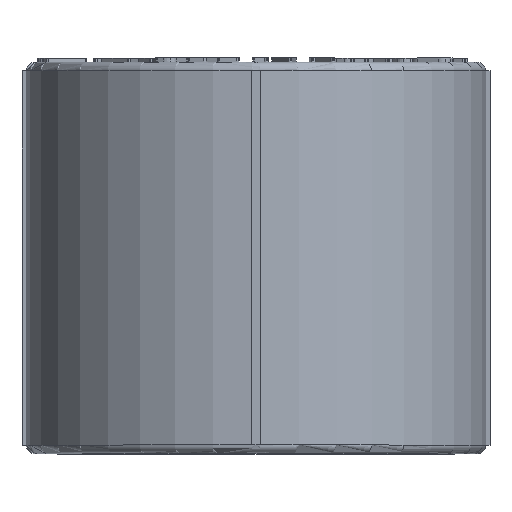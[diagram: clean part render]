
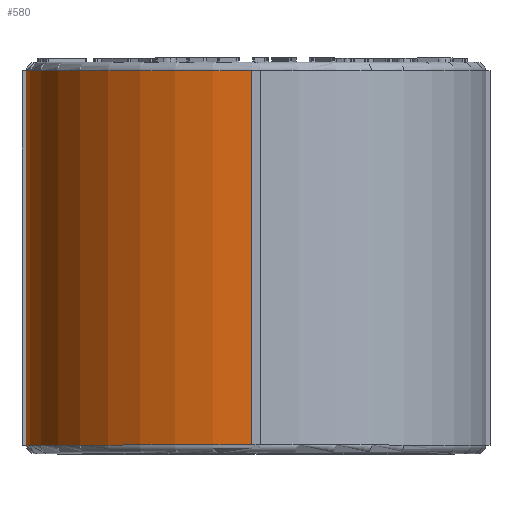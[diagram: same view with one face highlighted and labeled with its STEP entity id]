
A CAD part, top view. The second image highlights one B-rep face of the part: STEP entity #580.
In plain terms, the highlighted cylindrical face has radius 27 mm (diameter 54 mm), a partial arc.
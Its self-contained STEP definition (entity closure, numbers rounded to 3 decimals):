
#580=ADVANCED_FACE('',(#4055),#4057,.T.);
#4055=FACE_BOUND('',#4056,.T.);
#4056=EDGE_LOOP('',(#8209,#8210,#8211,#8212));
#4057=CYLINDRICAL_SURFACE('',#4058,27.);
#4058=AXIS2_PLACEMENT_3D('',#4059,#4060,#4061);
#4059=CARTESIAN_POINT('',(0.,-23.,0.));
#4060=DIRECTION('',(0.,1.,0.));
#4061=DIRECTION('',(-1.,0.,0.));
#8209=ORIENTED_EDGE('',*,*,#9825,.F.);
#8210=ORIENTED_EDGE('',*,*,#9826,.T.);
#8211=ORIENTED_EDGE('',*,*,#9827,.F.);
#8212=ORIENTED_EDGE('',*,*,#9821,.F.);
#9821=EDGE_CURVE('',#12366,#12368,#12369,.T.);
#9825=EDGE_CURVE('',#12375,#12366,#12376,.T.);
#9826=EDGE_CURVE('',#12375,#12377,#12378,.T.);
#9827=EDGE_CURVE('',#12368,#12377,#12379,.F.);
#12366=VERTEX_POINT('',#17933);
#12368=VERTEX_POINT('',#17938);
#12369=CIRCLE('',#17939,27.);
#12375=VERTEX_POINT('',#17957);
#12376=LINE('',#17958,#17959);
#12377=VERTEX_POINT('',#17961);
#12378=CIRCLE('',#17962,27.);
#12379=LINE('',#17966,#17967);
#17933=CARTESIAN_POINT('',(-26.995,22.,0.5));
#17938=CARTESIAN_POINT('',(-0.5,22.,26.995));
#17939=AXIS2_PLACEMENT_3D('',#17940,#17941,#17942);
#17940=CARTESIAN_POINT('',(0.,22.,0.));
#17941=DIRECTION('',(0.,1.,0.));
#17942=DIRECTION('',(-1.,0.,0.019));
#17957=CARTESIAN_POINT('',(-26.995,-22.,0.5));
#17958=CARTESIAN_POINT('',(-26.995,-22.,0.5));
#17959=VECTOR('',#17960,1.);
#17960=DIRECTION('',(0.,1.,0.));
#17961=CARTESIAN_POINT('',(-0.5,-22.,26.995));
#17962=AXIS2_PLACEMENT_3D('',#17963,#17964,#17965);
#17963=CARTESIAN_POINT('',(0.,-22.,0.));
#17964=DIRECTION('',(0.,1.,0.));
#17965=DIRECTION('',(-1.,0.,0.019));
#17966=CARTESIAN_POINT('',(-0.5,-22.,26.995));
#17967=VECTOR('',#17968,1.);
#17968=DIRECTION('',(0.,1.,0.));
